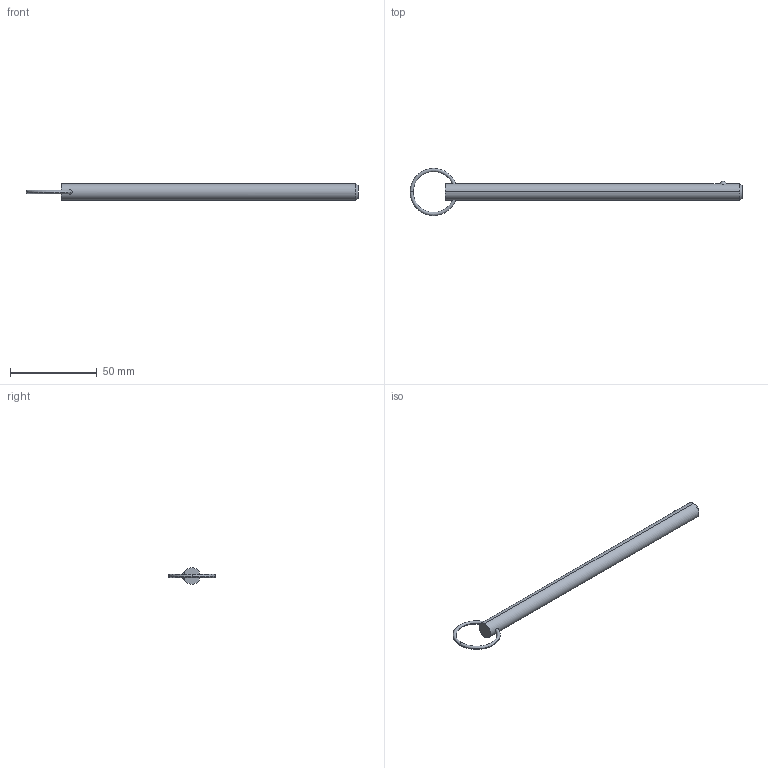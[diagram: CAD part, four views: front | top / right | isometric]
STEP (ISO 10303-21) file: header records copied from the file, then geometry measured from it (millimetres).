
FILE_DESCRIPTION (( 'STEP AP203' ), '1' );
FILE_NAME ('33012.W3760.step', '2024-11-01T14:10:46', ( '' ), ( '' ), 'SwSTEP 2.0', 'SolidWorks 2019', '' );
FILE_SCHEMA (( 'CONFIG_CONTROL_DESIGN' ));
Length unit declared in the file: millimetre
Products named in the file (3): Part1_33012.W3760; 33012.W3760; Part2_33012.W3760
Assembly tree (2 placements, depth 2):
  33012.W3760
    Part1_33012.W3760
    Part2_33012.W3760
Bounding box: 191.79 x 27.28 x 9.4 mm (x, y, z)
Volume: 12069.6 mm3; surface area: 5719.6 mm2
Topology: 2 solids, 2 shells, 16 faces, 31 edges, 18 vertices
Faces by surface type: torus 8, sphere 2, cone 2, cylinder 2, plane 2
Entity records: 849 total; most frequent: CARTESIAN_POINT 206, DIRECTION 88, ORIENTED_EDGE 62, AXIS2_PLACEMENT_3D 42, EDGE_CURVE 31, PERSON_AND_ORGANIZATION 26, CIRCLE 21, CALENDAR_DATE 19
